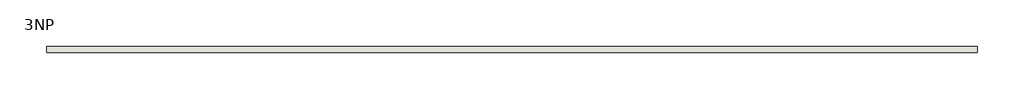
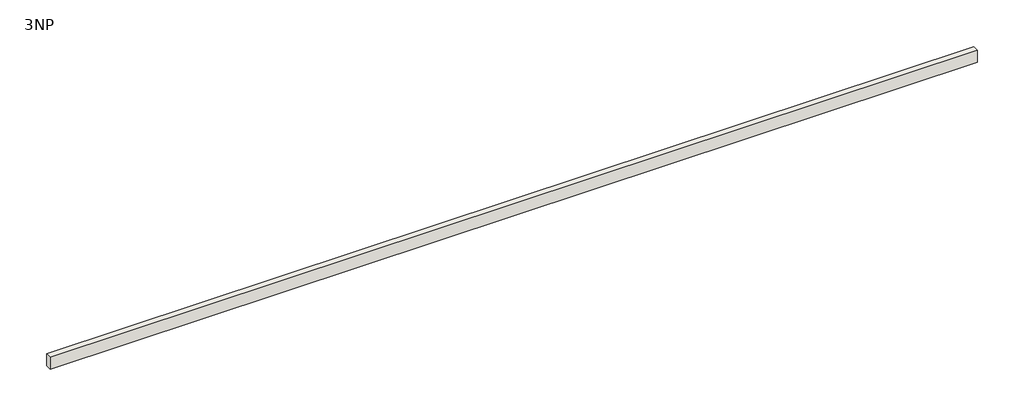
# One storey: 1 wall.
"""IFC4 building model written with IfcOpenShell, lengths in millimetres."""

import ifcopenshell
import ifcopenshell.guid

model = None  # the IFC model being written
_history = None  # IfcOwnerHistory: only IFC2X3 demands one
_inside = {}  # id of a spatial element -> (the spatial element, [elements in it])
_under = {}  # id of a project, library or spatial element -> (it, [spatial elements below it])
_declared = {}  # id of a project -> (the project, [libraries it declares])
_typed = {}  # id of a type object -> (the type object, [elements of that type])
_made_of = {}  # id of a material, layer set ... -> (it, [elements and type objects made of it])


def new_model(schema):
    """Start an empty IFC model of exactly this schema.

    Asked for "IFC4X3", IfcOpenShell would pick the latest addendum, in which some entities
    have other attributes; the version numbers below select the first issue.
    IFC2X3 requires an IfcOwnerHistory on every rooted entity: one is made here for all.
    """
    global model, _history
    if schema == "IFC4X3":
        model = ifcopenshell.file(schema_version=(4, 3, 0, 0))
    else:
        model = ifcopenshell.file(schema=schema)
    _inside.clear()
    _under.clear()
    _declared.clear()
    _typed.clear()
    _made_of.clear()
    _history = None
    if model.schema == "IFC2X3":
        org = make("IfcOrganization", Name="unknown")
        user = make(
            "IfcPersonAndOrganization",
            ThePerson=make("IfcPerson", FamilyName="unknown"),
            TheOrganization=org,
        )
        app = make(
            "IfcApplication",
            ApplicationDeveloper=org,
            Version="unknown",
            ApplicationFullName="unknown",
            ApplicationIdentifier="unknown",
        )
        _history = make(
            "IfcOwnerHistory",
            OwningUser=user,
            OwningApplication=app,
            ChangeAction="ADDED",
            CreationDate=0,
        )
    return model


def make(cls, **values):
    """One entity of the class cls with the attributes given. An attribute that is None is left unset."""
    return model.create_entity(
        cls, **{name: value for name, value in values.items() if value is not None}
    )


def rooted(cls, **values):
    """An entity with a GlobalId (a new one), such as an element, a storey or a relation."""
    return make(cls, GlobalId=ifcopenshell.guid.new(), OwnerHistory=_history, **values)


def si_unit(unit_type, name, prefix=None):
    """IfcSIUnit, for example si_unit("LENGTHUNIT", "METRE", prefix="MILLI")."""
    return make("IfcSIUnit", UnitType=unit_type, Prefix=prefix, Name=name)


def assignment(units):
    """IfcUnitAssignment: the units of a project."""
    return None if units is None else make("IfcUnitAssignment", Units=units)


def point(xyz):
    """IfcCartesianPoint."""
    return None if xyz is None else make("IfcCartesianPoint", Coordinates=xyz)


def direction(xyz):
    """IfcDirection."""
    return None if xyz is None else make("IfcDirection", DirectionRatios=xyz)


def frame(location, z_axis=None, x_axis=None):
    """IfcAxis2Placement3D, a coordinate frame: its origin and axes. An axis left out is left unset."""
    return make(
        "IfcAxis2Placement3D",
        Location=point(location),
        Axis=direction(z_axis),
        RefDirection=direction(x_axis),
    )


def frame_2d(location, x_axis=None):
    """IfcAxis2Placement2D, a coordinate frame in the plane: its origin and x axis."""
    return make(
        "IfcAxis2Placement2D", Location=point(location), RefDirection=direction(x_axis)
    )


def origin():
    """The frame at (0, 0, 0) with its axes left unset."""
    return frame((0.0, 0.0, 0.0))


def place(relative_to, where):
    """IfcLocalPlacement: puts the frame where relative to a parent placement (None: the world)."""
    return make(
        "IfcLocalPlacement", PlacementRelTo=relative_to, RelativePlacement=where
    )


def context(
    kind, dimensions, precision=None, world=None, true_north=None, identifier=None
):
    """IfcGeometricRepresentationContext, for example the 3D "Model" context."""
    return make(
        "IfcGeometricRepresentationContext",
        ContextIdentifier=identifier,
        ContextType=kind,
        CoordinateSpaceDimension=dimensions,
        Precision=precision,
        WorldCoordinateSystem=world,
        TrueNorth=true_north,
    )


def project(units=None, contexts=None):
    """IfcProject with its units and contexts."""
    return rooted(
        "IfcProject",
        Name="project",
        RepresentationContexts=contexts,
        UnitsInContext=assignment(units),
    )


def spatial(cls, under=None, at=None, **own):
    """A site, building, storey or space (cls), placed at a placement, below another one or the project."""
    s = rooted(cls, ObjectPlacement=at, **own)
    if under is not None:
        _under.setdefault(under.id(), (under, []))[1].append(s)
    return s


def polyline(points):
    """IfcPolyline through the points."""
    return make("IfcPolyline", Points=[point(p) for p in points])


def circle_curve(where, radius):
    """IfcCircle in the frame where."""
    return make("IfcCircle", Position=where, Radius=radius)


def trimmed(basis, trim1, trim2, sense, master):
    """IfcTrimmedCurve: the piece of a basis curve between two trims."""
    return make(
        "IfcTrimmedCurve",
        BasisCurve=basis,
        Trim1=trim1,
        Trim2=trim2,
        SenseAgreement=sense,
        MasterRepresentation=master,
    )


def segment(curve, same_sense, transition):
    """IfcCompositeCurveSegment."""
    return make(
        "IfcCompositeCurveSegment",
        Transition=transition,
        SameSense=same_sense,
        ParentCurve=curve,
    )


def composite_curve(segments, self_intersect=None):
    """IfcCompositeCurve: segments joined end to end."""
    return make("IfcCompositeCurve", Segments=segments, SelfIntersect=self_intersect)


def outline(outer, holes=None, kind="AREA"):
    """IfcArbitraryClosedProfileDef: a profile drawn as a closed curve; with holes, ...WithVoids."""
    if holes is None:
        return make("IfcArbitraryClosedProfileDef", ProfileType=kind, OuterCurve=outer)
    return make(
        "IfcArbitraryProfileDefWithVoids",
        ProfileType=kind,
        OuterCurve=outer,
        InnerCurves=holes,
    )


def extrude(swept, where, along, depth):
    """IfcExtrudedAreaSolid: the profile swept, set in the frame where, extruded along a direction by depth."""
    return make(
        "IfcExtrudedAreaSolid",
        SweptArea=swept,
        Position=where,
        ExtrudedDirection=direction(along),
        Depth=depth,
    )


def shape(context_of_items, identifier, shape_type, items):
    """IfcShapeRepresentation: the items that make up one representation, for example the "Body"."""
    return make(
        "IfcShapeRepresentation",
        ContextOfItems=context_of_items,
        RepresentationIdentifier=identifier,
        RepresentationType=shape_type,
        Items=items,
    )


def made_of(thing, what):
    """Note that an element or type object is made of a material, layer set ...; save() writes the relation."""
    if what is not None:
        _made_of.setdefault(what.id(), (what, []))[1].append(thing)
    return thing


def element(
    cls,
    number,
    at=None,
    inside=None,
    cuts=None,
    type_object=None,
    material=None,
    context=None,
    identifier="Body",
    shape_type=None,
    held_by="IfcProductDefinitionShape",
    body=None,
    shapes=None,
    **own,
):
    """One element of the class cls, such as IfcWall. Its Tag is "e" and its number.

    at: its placement. inside: the storey or other place that contains it. cuts: it is an
    opening in that element (IfcRelVoidsElement). A single representation is given by context,
    identifier, shape_type and body (its items); several are given by shapes. held_by: the class
    of the entity that holds the representations. save() writes the other relations.
    """
    e = rooted(cls, Tag="e%d" % number, ObjectPlacement=at, **own)
    if body is not None:
        shapes = [shape(context, identifier, shape_type, body)]
    if shapes is not None:
        e.Representation = make(held_by, Representations=shapes)
    if inside is not None:
        _inside.setdefault(inside.id(), (inside, []))[1].append(e)
    if cuts is not None:
        rooted(
            "IfcRelVoidsElement", RelatingBuildingElement=cuts, RelatedOpeningElement=e
        )
    if type_object is not None:
        _typed.setdefault(type_object.id(), (type_object, []))[1].append(e)
    return made_of(e, material)


def aggregate(whole, parts):
    """IfcRelAggregates: a whole, such as a stair, and the parts it consists of."""
    return rooted("IfcRelAggregates", RelatingObject=whole, RelatedObjects=parts)


def save(model, path):
    """Write the relations noted so far, then the file.

    IfcRelAggregates (storeys below a building ...), IfcRelContainedInSpatialStructure (elements
    in a storey), IfcRelDefinesByType, IfcRelAssociatesMaterial and IfcRelDeclares: one each for
    every whole, place, type object, material and project.
    """
    for whole, parts in _under.values():
        aggregate(whole, parts)
    for where, things in _inside.values():
        rooted(
            "IfcRelContainedInSpatialStructure",
            RelatedElements=things,
            RelatingStructure=where,
        )
    for kind, things in _typed.values():
        rooted("IfcRelDefinesByType", RelatedObjects=things, RelatingType=kind)
    for what, things in _made_of.values():
        rooted("IfcRelAssociatesMaterial", RelatedObjects=things, RelatingMaterial=what)
    for by, libraries in _declared.values():
        rooted("IfcRelDeclares", RelatingContext=by, RelatedDefinitions=libraries)
    model.write(path)


model = new_model("IFC4")

# Units and contexts
model_context = context("Model", 3, world=origin())
ifc_project = project(units=[si_unit("LENGTHUNIT", "METRE", prefix="MILLI")], contexts=[model_context])

# Site, building, storey
site = spatial("IfcSite", under=ifc_project)
building = spatial("IfcBuilding", under=site)
storey = spatial("IfcBuildingStorey", under=building, Name="3NP", Elevation=8000.0)

# Wall
placement = place(None, origin())
element("IfcWall", 1, ObjectType="Exterior - EIFS on Mtl. Stud", at=placement, inside=storey, context=model_context, shape_type="SweptSolid", body=[
    extrude(outline(composite_curve([segment(polyline([(-4624.9448694, 8556.4380679), (-4624.9448694, 8000.0), (-4891.9448694, 8000.0), (-4891.9448694, 8541.7849302)]), True, "CONTINUOUS"), segment(trimmed(circle_curve(frame_2d((-3782.5530793, -9232.9575956)), 17809.3296337), [point((-4891.9448694, 8541.7849302))], [point((-4624.9448694, 8556.4380679))], False, "CARTESIAN"), True, "CONTINUOUS")], self_intersect=False)), frame((-6587.8076313, 0.0, 0.0), z_axis=(1.0, 0.0, 0.0), x_axis=(0.0, 1.0, 0.0)), (0.0, 0.0, 1.0), 40343.4831585),
])

save(model, "model.ifc")
